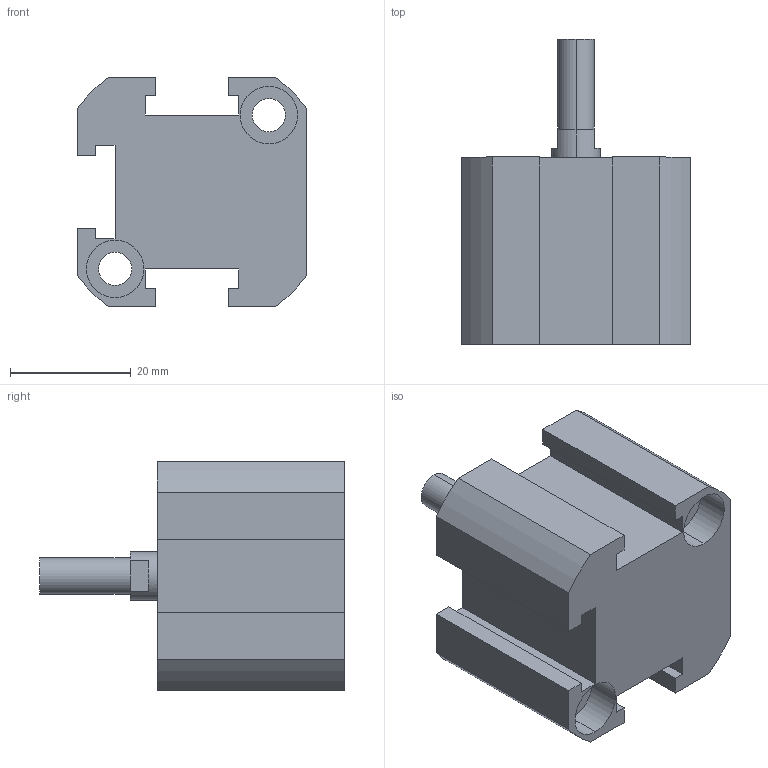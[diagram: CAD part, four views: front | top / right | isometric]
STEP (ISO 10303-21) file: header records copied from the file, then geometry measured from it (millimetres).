
FILE_DESCRIPTION (( 'STEP AP203' ), '1' );
FILE_NAME ('XC#M1-20-10.STEP', '2016-05-23T08:37:34', ( '' ), ( '' ), 'SwSTEP 2.0', 'SolidWorks 2014', '' );
FILE_SCHEMA (( 'CONFIG_CONTROL_DESIGN' ));
Length unit declared in the file: millimetre
Products named in the file (1): XC#M1-20-10
Bounding box: 38 x 50.5 x 38 mm (x, y, z)
Volume: 32689.2 mm3; surface area: 10478.8 mm2
Topology: 1 solids, 1 shells, 85 faces, 217 edges, 142 vertices
Faces by surface type: plane 46, cylinder 37, cone 2
Entity records: 2663 total; most frequent: DIRECTION 468, CARTESIAN_POINT 443, ORIENTED_EDGE 430, EDGE_CURVE 215, AXIS2_PLACEMENT_3D 167, VERTEX_POINT 142, LINE 134, VECTOR 134
